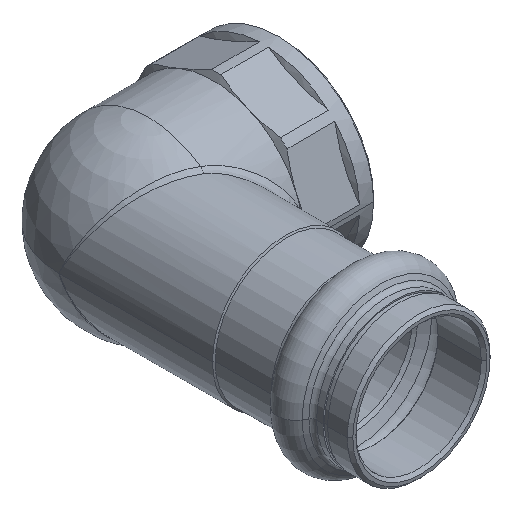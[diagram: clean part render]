
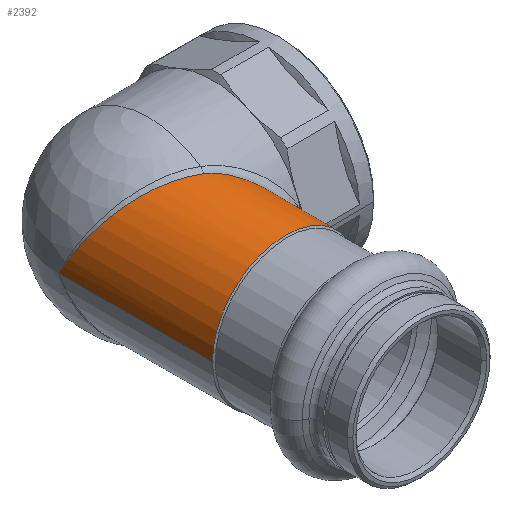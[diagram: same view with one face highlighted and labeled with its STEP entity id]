
A CAD part, isometric view. The second image highlights one B-rep face of the part: STEP entity #2392.
In plain terms, the highlighted cylindrical face has radius 13 mm (diameter 26 mm), a partial arc.
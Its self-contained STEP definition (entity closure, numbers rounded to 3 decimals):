
#39 = CARTESIAN_POINT ( 'NONE',  ( 11.492, -16.577, 6.089 ) ) ;
#52 = CARTESIAN_POINT ( 'NONE',  ( 3.372, -10.65, 12.58 ) ) ;
#176 = DIRECTION ( 'NONE',  ( -1., 0., 0. ) ) ;
#223 = CARTESIAN_POINT ( 'NONE',  ( 2.6, -10.392, 12.737 ) ) ;
#233 = CARTESIAN_POINT ( 'NONE',  ( -8.004, -5.885, 10.255 ) ) ;
#245 = CARTESIAN_POINT ( 'NONE',  ( -12.949, -0.607, 1.175 ) ) ;
#276 = ORIENTED_EDGE ( 'NONE', *, *, #3462, .F. ) ;
#307 = CARTESIAN_POINT ( 'NONE',  ( 13., -18., 0.405 ) ) ;
#324 = CARTESIAN_POINT ( 'NONE',  ( 10.742, -15.892, 7.359 ) ) ;
#499 = CARTESIAN_POINT ( 'NONE',  ( 13., 24.271, 0. ) ) ;
#515 = CARTESIAN_POINT ( 'NONE',  ( -9.077, -5.216, 9.318 ) ) ;
#527 = CARTESIAN_POINT ( 'NONE',  ( -12.994, -0.243, 0.47 ) ) ;
#606 = CARTESIAN_POINT ( 'NONE',  ( 9.62, -14.905, 8.752 ) ) ;
#766 = AXIS2_PLACEMENT_3D ( 'NONE', #862, #1128, #2568 ) ;
#792 = CARTESIAN_POINT ( 'NONE',  ( -0.854, -9.172, 12.981 ) ) ;
#798 = VECTOR ( 'NONE', #3114, 1000. ) ;
#806 = CARTESIAN_POINT ( 'NONE',  ( -10.046, -4.528, 8.264 ) ) ;
#822 = CARTESIAN_POINT ( 'NONE',  ( -13., 0., 0. ) ) ;
#862 = CARTESIAN_POINT ( 'NONE',  ( 0., 24.271, 0. ) ) ;
#883 = CARTESIAN_POINT ( 'NONE',  ( 12.981, -17.982, 0.811 ) ) ;
#896 = CARTESIAN_POINT ( 'NONE',  ( 8.878, -14.279, 9.503 ) ) ;
#949 = CYLINDRICAL_SURFACE ( 'NONE', #766, 13. ) ;
#979 = ORIENTED_EDGE ( 'NONE', *, *, #2629, .T. ) ;
#1004 = AXIS2_PLACEMENT_3D ( 'NONE', #3634, #1843, #176 ) ;
#1062 = VECTOR ( 'NONE', #3599, 1000. ) ;
#1072 = CARTESIAN_POINT ( 'NONE',  ( -2.323, -8.6, 12.8 ) ) ;
#1081 = CARTESIAN_POINT ( 'NONE',  ( -11.393, -3.369, 6.331 ) ) ;
#1128 = DIRECTION ( 'NONE',  ( 0., 1., 0. ) ) ;
#1153 = CARTESIAN_POINT ( 'NONE',  ( 12.847, -17.853, 2.03 ) ) ;
#1160 = CARTESIAN_POINT ( 'NONE',  ( 7.823, -13.427, 10.406 ) ) ;
#1323 = VERTEX_POINT ( 'NONE', #3668 ) ;
#1332 = CARTESIAN_POINT ( 'NONE',  ( -4.217, -7.808, 12.335 ) ) ;
#1344 = CARTESIAN_POINT ( 'NONE',  ( -12.164, -2.418, 4.612 ) ) ;
#1424 = CARTESIAN_POINT ( 'NONE',  ( 12.403, -17.429, 3.972 ) ) ;
#1435 = CARTESIAN_POINT ( 'NONE',  ( 6.053, -12.144, 11.527 ) ) ;
#1483 = CARTESIAN_POINT ( 'NONE',  ( -13., -27.327, 0. ) ) ;
#1616 = CARTESIAN_POINT ( 'NONE',  ( -6.411, -6.757, 11.32 ) ) ;
#1628 = CARTESIAN_POINT ( 'NONE',  ( -12.593, -1.697, 3.263 ) ) ;
#1709 = CARTESIAN_POINT ( 'NONE',  ( 11.827, -16.888, 5.41 ) ) ;
#1725 = CARTESIAN_POINT ( 'NONE',  ( 4.08, -10.986, 12.364 ) ) ;
#1763 = ORIENTED_EDGE ( 'NONE', *, *, #2227, .T. ) ;
#1798 = LINE ( 'NONE', #3319, #1062 ) ;
#1843 = DIRECTION ( 'NONE',  ( 0., 1., 0. ) ) ;
#1892 = CARTESIAN_POINT ( 'NONE',  ( 1.61, -10.062, 12.939 ) ) ;
#1896 = VERTEX_POINT ( 'NONE', #2881 ) ;
#1904 = CARTESIAN_POINT ( 'NONE',  ( -7.623, -6.105, 10.541 ) ) ;
#1918 = CARTESIAN_POINT ( 'NONE',  ( -12.873, -0.97, 1.876 ) ) ;
#1993 = CARTESIAN_POINT ( 'NONE',  ( 11.313, -16.412, 6.416 ) ) ;
#2007 = CARTESIAN_POINT ( 'NONE',  ( 2.6, -10.392, 12.737 ) ) ;
#2066 = B_SPLINE_CURVE_WITH_KNOTS ( 'NONE', 3,
 ( #223, #1892, #2494, #792, #2808, #1072, #3116, #1332, #3410, #1616, #3690, #1904, #233, #2200, #515, #2507, #806, #2822, #1081, #3130, #1344, #3424, #1628, #3700, #1918, #245, #2214, #527, #2526, #822 ),
 .UNSPECIFIED., .F., .F.,
 ( 4, 2, 2, 2, 2, 2, 2, 2, 2, 2, 2, 2, 2, 2, 4 ),
 ( 0., 0.003, 0.005, 0.006, 0.009, 0.011, 0.013, 0.014, 0.016, 0.019, 0.02, 0.022, 0.024, 0.024, 0.025 ),
 .UNSPECIFIED. ) ;
#2200 = CARTESIAN_POINT ( 'NONE',  ( -8.731, -5.441, 9.643 ) ) ;
#2214 = CARTESIAN_POINT ( 'NONE',  ( -12.968, -0.485, 0.94 ) ) ;
#2227 = EDGE_CURVE ( 'NONE', #2702, #1323, #3073, .T. ) ;
#2287 = CARTESIAN_POINT ( 'NONE',  ( 13., -18., 0. ) ) ;
#2301 = CARTESIAN_POINT ( 'NONE',  ( 10.318, -15.512, 7.94 ) ) ;
#2303 = LINE ( 'NONE', #499, #798 ) ;
#2342 = EDGE_CURVE ( 'NONE', #1323, #1896, #2066, .T. ) ;
#2392 = ADVANCED_FACE ( 'NONE', ( #2454 ), #949, .T. ) ;
#2454 = FACE_OUTER_BOUND ( 'NONE', #2935, .T. ) ;
#2494 = CARTESIAN_POINT ( 'NONE',  ( 0.622, -9.718, 13.022 ) ) ;
#2507 = CARTESIAN_POINT ( 'NONE',  ( -9.735, -4.76, 8.629 ) ) ;
#2526 = CARTESIAN_POINT ( 'NONE',  ( -13., -0.12, 0.233 ) ) ;
#2568 = DIRECTION ( 'NONE',  ( -1., 0., 0. ) ) ;
#2612 = CARTESIAN_POINT ( 'NONE',  ( 9.377, -14.698, 9.011 ) ) ;
#2629 = EDGE_CURVE ( 'NONE', #3027, #2921, #3725, .T. ) ;
#2702 = VERTEX_POINT ( 'NONE', #3385 ) ;
#2808 = CARTESIAN_POINT ( 'NONE',  ( -1.344, -8.985, 12.94 ) ) ;
#2822 = CARTESIAN_POINT ( 'NONE',  ( -10.908, -3.834, 7.136 ) ) ;
#2881 = CARTESIAN_POINT ( 'NONE',  ( -13., 0., 0. ) ) ;
#2915 = CARTESIAN_POINT ( 'NONE',  ( 12.905, -17.909, 1.622 ) ) ;
#2921 = VERTEX_POINT ( 'NONE', #3533 ) ;
#2929 = CARTESIAN_POINT ( 'NONE',  ( 8.62, -14.067, 9.737 ) ) ;
#2935 = EDGE_LOOP ( 'NONE', ( #979, #3558, #1763, #3467, #276 ) ) ;
#3027 = VERTEX_POINT ( 'NONE', #1483 ) ;
#3073 = B_SPLINE_CURVE_WITH_KNOTS ( 'NONE', 3,
 ( #2287, #307, #883, #2915, #1153, #3218, #1424, #3500, #1709, #39, #1993, #324, #2301, #606, #2612, #896, #2929, #1160, #3233, #1435, #3514, #1725, #52, #2007 ),
 .UNSPECIFIED., .F., .F.,
 ( 4, 2, 2, 2, 2, 2, 2, 2, 2, 2, 2, 4 ),
 ( 0.019, 0.021, 0.022, 0.024, 0.026, 0.027, 0.029, 0.03, 0.032, 0.034, 0.036, 0.039 ),
 .UNSPECIFIED. ) ;
#3114 = DIRECTION ( 'NONE',  ( 0., 1., 0. ) ) ;
#3116 = CARTESIAN_POINT ( 'NONE',  ( -2.805, -8.403, 12.703 ) ) ;
#3130 = CARTESIAN_POINT ( 'NONE',  ( -11.987, -2.658, 5.052 ) ) ;
#3218 = CARTESIAN_POINT ( 'NONE',  ( 12.621, -17.637, 3.217 ) ) ;
#3233 = CARTESIAN_POINT ( 'NONE',  ( 7.259, -12.994, 10.807 ) ) ;
#3319 = CARTESIAN_POINT ( 'NONE',  ( -13., 24.271, 0. ) ) ;
#3385 = CARTESIAN_POINT ( 'NONE',  ( 13., -18., 0. ) ) ;
#3410 = CARTESIAN_POINT ( 'NONE',  ( -5.12, -7.399, 11.989 ) ) ;
#3424 = CARTESIAN_POINT ( 'NONE',  ( -12.466, -1.937, 3.717 ) ) ;
#3462 = EDGE_CURVE ( 'NONE', #3027, #1896, #1798, .T. ) ;
#3467 = ORIENTED_EDGE ( 'NONE', *, *, #2342, .T. ) ;
#3500 = CARTESIAN_POINT ( 'NONE',  ( 11.983, -17.034, 5.056 ) ) ;
#3514 = CARTESIAN_POINT ( 'NONE',  ( 5.42, -11.732, 11.838 ) ) ;
#3533 = CARTESIAN_POINT ( 'NONE',  ( 13., -27.327, 0. ) ) ;
#3558 = ORIENTED_EDGE ( 'NONE', *, *, #3701, .T. ) ;
#3599 = DIRECTION ( 'NONE',  ( 0., 1., 0. ) ) ;
#3634 = CARTESIAN_POINT ( 'NONE',  ( 0., -27.327, 0. ) ) ;
#3668 = CARTESIAN_POINT ( 'NONE',  ( 2.6, -10.392, 12.737 ) ) ;
#3690 = CARTESIAN_POINT ( 'NONE',  ( -6.828, -6.541, 11.073 ) ) ;
#3700 = CARTESIAN_POINT ( 'NONE',  ( -12.796, -1.213, 2.342 ) ) ;
#3701 = EDGE_CURVE ( 'NONE', #2921, #2702, #2303, .T. ) ;
#3725 = CIRCLE ( 'NONE', #1004, 13. ) ;
